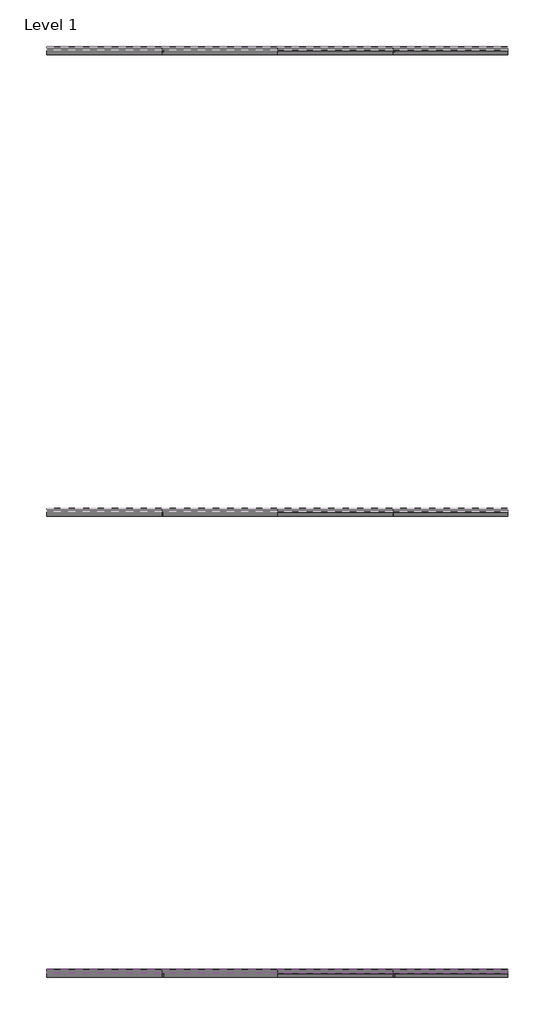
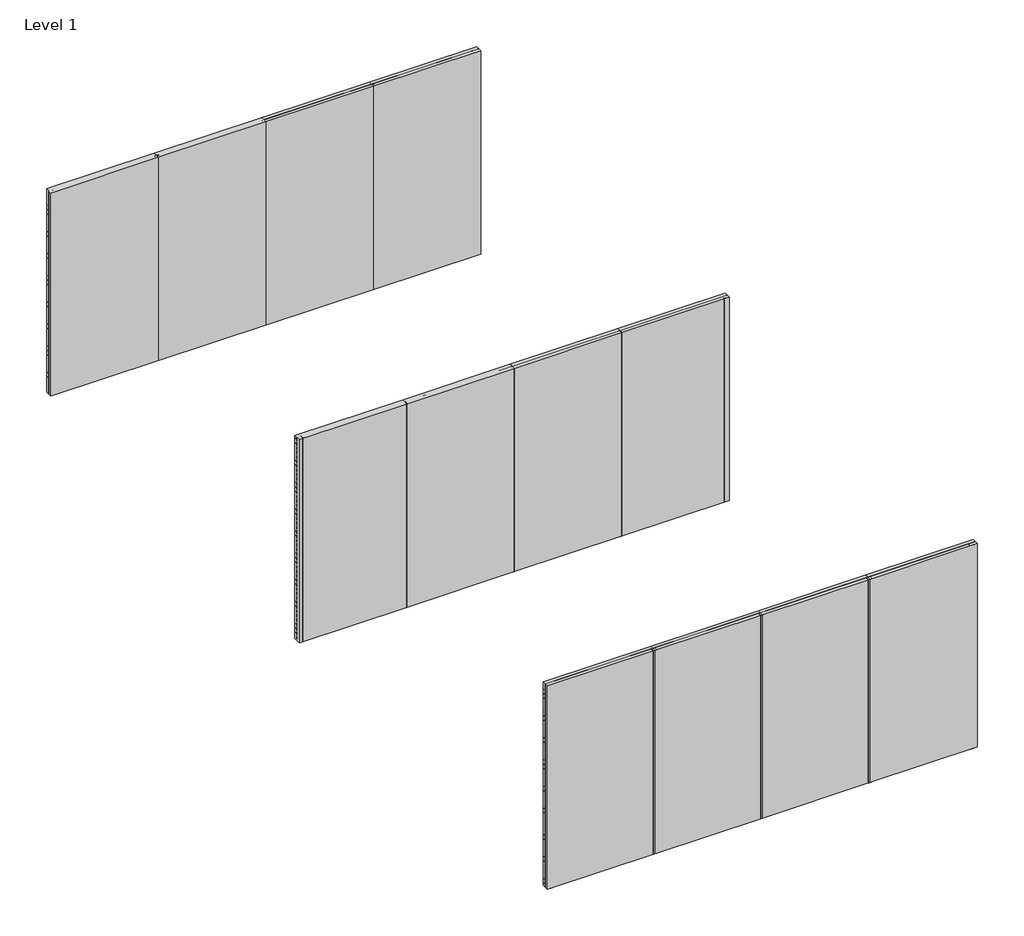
# One storey, part 1 of 2: 57 proxies, 15 members, 15 plates.
"""IFC4 building model written with IfcOpenShell, lengths in millimetres."""

from ifc_helpers import new_model, si_unit, frame, origin, origin_with_axes, place, context, project, spatial, polyline, outline, extrude, transform, mapped, element, save
from components import rectangular_mullion_bbbcbd30, rectangular_mullion_f8d4a220, rectangular_mullion_81aaf6fe, rectangular_mullion_6e08dc26, rectangular_mullion_75c52e10, rectangular_mullion_40295cf1, rectangular_mullion_7f158cb3, rectangular_mullion_66519e13, rectangular_mullion_5829b51c, empty_system_panel_empty_ae16e1e1

model = new_model("IFC4")

# Units and contexts
model_context = context("Model", 3, world=origin())
ifc_project = project(units=[si_unit("LENGTHUNIT", "METRE", prefix="MILLI")], contexts=[model_context])

# Site, building, storey
site = spatial("IfcSite", under=ifc_project)
building = spatial("IfcBuilding", under=site)
storey = spatial("IfcBuildingStorey", under=building, Name="Level 1", Elevation=0.0)

# Proxies
placement = place(None, origin())
element("IfcBuildingElementProxy", 1, Name="Wall Sweeps", at=placement, inside=storey, context=model_context, shape_type="SweptSolid", body=[
    extrude(outline(polyline([(-7995.0, 2990.0), (-7995.0, 2981.2901632), (-7946.0, 2953.0), (-7946.0, 2918.0), (-7997.0, 2947.4448637), (-7997.0, 2990.0), (-7995.0, 2990.0)])), frame((0.0, 0.0, 0.0), z_axis=(1.0, 0.0, 0.0), x_axis=(0.0, 1.0, 0.0)), (0.0, 0.0, 1.0), 6000.0),
])
element("IfcBuildingElementProxy", 2, Name="Wall Sweeps", at=placement, inside=storey, context=model_context, shape_type="SweptSolid", body=[
    extrude(outline(polyline([(-7995.0, 2925.0), (-7995.0, 2916.2901632), (-7946.0, 2888.0), (-7946.0, 2853.0), (-7997.0, 2882.4448637), (-7997.0, 2925.0), (-7995.0, 2925.0)])), frame((0.0, 0.0, 0.0), z_axis=(1.0, 0.0, 0.0), x_axis=(0.0, 1.0, 0.0)), (0.0, 0.0, 1.0), 6000.0),
])
element("IfcBuildingElementProxy", 3, Name="Wall Sweeps", at=placement, inside=storey, context=model_context, shape_type="SweptSolid", body=[
    extrude(outline(polyline([(-7995.0, 2860.0), (-7995.0, 2851.2901632), (-7946.0, 2823.0), (-7946.0, 2788.0), (-7997.0, 2817.4448637), (-7997.0, 2860.0), (-7995.0, 2860.0)])), frame((0.0, 0.0, 0.0), z_axis=(1.0, 0.0, 0.0), x_axis=(0.0, 1.0, 0.0)), (0.0, 0.0, 1.0), 6000.0),
])
element("IfcBuildingElementProxy", 4, Name="Wall Sweeps", at=placement, inside=storey, context=model_context, shape_type="SweptSolid", body=[
    extrude(outline(polyline([(-7995.0, 2795.0), (-7995.0, 2786.2901632), (-7946.0, 2758.0), (-7946.0, 2723.0), (-7997.0, 2752.4448637), (-7997.0, 2795.0), (-7995.0, 2795.0)])), frame((0.0, 0.0, 0.0), z_axis=(1.0, 0.0, 0.0), x_axis=(0.0, 1.0, 0.0)), (0.0, 0.0, 1.0), 6000.0),
])
element("IfcBuildingElementProxy", 5, Name="Wall Sweeps", at=placement, inside=storey, context=model_context, shape_type="SweptSolid", body=[
    extrude(outline(polyline([(-7995.0, 2730.0), (-7995.0, 2721.2901632), (-7946.0, 2693.0), (-7946.0, 2658.0), (-7997.0, 2687.4448637), (-7997.0, 2730.0), (-7995.0, 2730.0)])), frame((0.0, 0.0, 0.0), z_axis=(1.0, 0.0, 0.0), x_axis=(0.0, 1.0, 0.0)), (0.0, 0.0, 1.0), 6000.0),
])
element("IfcBuildingElementProxy", 6, Name="Wall Sweeps", at=placement, inside=storey, context=model_context, shape_type="SweptSolid", body=[
    extrude(outline(polyline([(-7995.0, 2665.0), (-7995.0, 2656.2901632), (-7946.0, 2628.0), (-7946.0, 2593.0), (-7997.0, 2622.4448637), (-7997.0, 2665.0), (-7995.0, 2665.0)])), frame((0.0, 0.0, 0.0), z_axis=(1.0, 0.0, 0.0), x_axis=(0.0, 1.0, 0.0)), (0.0, 0.0, 1.0), 6000.0),
])
element("IfcBuildingElementProxy", 7, Name="Wall Sweeps", at=placement, inside=storey, context=model_context, shape_type="SweptSolid", body=[
    extrude(outline(polyline([(-7995.0, 2600.0), (-7995.0, 2591.2901632), (-7946.0, 2563.0), (-7946.0, 2528.0), (-7997.0, 2557.4448637), (-7997.0, 2600.0), (-7995.0, 2600.0)])), frame((0.0, 0.0, 0.0), z_axis=(1.0, 0.0, 0.0), x_axis=(0.0, 1.0, 0.0)), (0.0, 0.0, 1.0), 6000.0),
])
element("IfcBuildingElementProxy", 8, Name="Wall Sweeps", at=placement, inside=storey, context=model_context, shape_type="SweptSolid", body=[
    extrude(outline(polyline([(-7995.0, 2535.0), (-7995.0, 2526.2901632), (-7946.0, 2498.0), (-7946.0, 2463.0), (-7997.0, 2492.4448637), (-7997.0, 2535.0), (-7995.0, 2535.0)])), frame((0.0, 0.0, 0.0), z_axis=(1.0, 0.0, 0.0), x_axis=(0.0, 1.0, 0.0)), (0.0, 0.0, 1.0), 6000.0),
])
element("IfcBuildingElementProxy", 9, Name="Wall Sweeps", at=placement, inside=storey, context=model_context, shape_type="SweptSolid", body=[
    extrude(outline(polyline([(-7995.0, 2470.0), (-7995.0, 2461.2901632), (-7946.0, 2433.0), (-7946.0, 2398.0), (-7997.0, 2427.4448637), (-7997.0, 2470.0), (-7995.0, 2470.0)])), frame((0.0, 0.0, 0.0), z_axis=(1.0, 0.0, 0.0), x_axis=(0.0, 1.0, 0.0)), (0.0, 0.0, 1.0), 6000.0),
])
element("IfcBuildingElementProxy", 10, Name="Wall Sweeps", at=placement, inside=storey, context=model_context, shape_type="SweptSolid", body=[
    extrude(outline(polyline([(-7995.0, 2405.0), (-7995.0, 2396.2901632), (-7946.0, 2368.0), (-7946.0, 2333.0), (-7997.0, 2362.4448637), (-7997.0, 2405.0), (-7995.0, 2405.0)])), frame((0.0, 0.0, 0.0), z_axis=(1.0, 0.0, 0.0), x_axis=(0.0, 1.0, 0.0)), (0.0, 0.0, 1.0), 6000.0),
])
element("IfcBuildingElementProxy", 11, Name="Wall Sweeps", at=placement, inside=storey, context=model_context, shape_type="SweptSolid", body=[
    extrude(outline(polyline([(-7995.0, 2340.0), (-7995.0, 2331.2901632), (-7946.0, 2303.0), (-7946.0, 2268.0), (-7997.0, 2297.4448637), (-7997.0, 2340.0), (-7995.0, 2340.0)])), frame((0.0, 0.0, 0.0), z_axis=(1.0, 0.0, 0.0), x_axis=(0.0, 1.0, 0.0)), (0.0, 0.0, 1.0), 6000.0),
])
element("IfcBuildingElementProxy", 12, Name="Wall Sweeps", at=placement, inside=storey, context=model_context, shape_type="SweptSolid", body=[
    extrude(outline(polyline([(-13995.0, 2990.0), (-13995.0, 2981.2901632), (-13946.0, 2953.0), (-13946.0, 2918.0), (-13997.0, 2947.4448637), (-13997.0, 2990.0), (-13995.0, 2990.0)])), frame((0.0, 0.0, 0.0), z_axis=(1.0, 0.0, 0.0), x_axis=(0.0, 1.0, 0.0)), (0.0, 0.0, 1.0), 6000.0),
])
element("IfcBuildingElementProxy", 13, Name="Wall Sweeps", at=placement, inside=storey, context=model_context, shape_type="SweptSolid", body=[
    extrude(outline(polyline([(-13995.0, 2925.0), (-13995.0, 2916.2901632), (-13946.0, 2888.0), (-13946.0, 2853.0), (-13997.0, 2882.4448637), (-13997.0, 2925.0), (-13995.0, 2925.0)])), frame((0.0, 0.0, 0.0), z_axis=(1.0, 0.0, 0.0), x_axis=(0.0, 1.0, 0.0)), (0.0, 0.0, 1.0), 6000.0),
])
element("IfcBuildingElementProxy", 14, Name="Wall Sweeps", at=placement, inside=storey, context=model_context, shape_type="SweptSolid", body=[
    extrude(outline(polyline([(-13995.0, 2860.0), (-13995.0, 2851.2901632), (-13946.0, 2823.0), (-13946.0, 2788.0), (-13997.0, 2817.4448637), (-13997.0, 2860.0), (-13995.0, 2860.0)])), frame((0.0, 0.0, 0.0), z_axis=(1.0, 0.0, 0.0), x_axis=(0.0, 1.0, 0.0)), (0.0, 0.0, 1.0), 6000.0),
])
element("IfcBuildingElementProxy", 15, Name="Wall Sweeps", at=placement, inside=storey, context=model_context, shape_type="SweptSolid", body=[
    extrude(outline(polyline([(-13995.0, 2795.0), (-13995.0, 2786.2901632), (-13946.0, 2758.0), (-13946.0, 2723.0), (-13997.0, 2752.4448637), (-13997.0, 2795.0), (-13995.0, 2795.0)])), frame((0.0, 0.0, 0.0), z_axis=(1.0, 0.0, 0.0), x_axis=(0.0, 1.0, 0.0)), (0.0, 0.0, 1.0), 6000.0),
])
element("IfcBuildingElementProxy", 16, Name="Wall Sweeps", at=placement, inside=storey, context=model_context, shape_type="SweptSolid", body=[
    extrude(outline(polyline([(-13995.0, 2730.0), (-13995.0, 2721.2901632), (-13946.0, 2693.0), (-13946.0, 2658.0), (-13997.0, 2687.4448637), (-13997.0, 2730.0), (-13995.0, 2730.0)])), frame((0.0, 0.0, 0.0), z_axis=(1.0, 0.0, 0.0), x_axis=(0.0, 1.0, 0.0)), (0.0, 0.0, 1.0), 6000.0),
])
element("IfcBuildingElementProxy", 17, Name="Wall Sweeps", at=placement, inside=storey, context=model_context, shape_type="SweptSolid", body=[
    extrude(outline(polyline([(-13995.0, 2665.0), (-13995.0, 2656.2901632), (-13946.0, 2628.0), (-13946.0, 2593.0), (-13997.0, 2622.4448637), (-13997.0, 2665.0), (-13995.0, 2665.0)])), frame((0.0, 0.0, 0.0), z_axis=(1.0, 0.0, 0.0), x_axis=(0.0, 1.0, 0.0)), (0.0, 0.0, 1.0), 6000.0),
])
element("IfcBuildingElementProxy", 18, Name="Wall Sweeps", at=placement, inside=storey, context=model_context, shape_type="SweptSolid", body=[
    extrude(outline(polyline([(-13995.0, 2600.0), (-13995.0, 2591.2901632), (-13946.0, 2563.0), (-13946.0, 2528.0), (-13997.0, 2557.4448637), (-13997.0, 2600.0), (-13995.0, 2600.0)])), frame((0.0, 0.0, 0.0), z_axis=(1.0, 0.0, 0.0), x_axis=(0.0, 1.0, 0.0)), (0.0, 0.0, 1.0), 6000.0),
])
element("IfcBuildingElementProxy", 19, Name="Wall Sweeps", at=placement, inside=storey, context=model_context, shape_type="SweptSolid", body=[
    extrude(outline(polyline([(-13995.0, 2535.0), (-13995.0, 2526.2901632), (-13946.0, 2498.0), (-13946.0, 2463.0), (-13997.0, 2492.4448637), (-13997.0, 2535.0), (-13995.0, 2535.0)])), frame((0.0, 0.0, 0.0), z_axis=(1.0, 0.0, 0.0), x_axis=(0.0, 1.0, 0.0)), (0.0, 0.0, 1.0), 6000.0),
])
element("IfcBuildingElementProxy", 20, Name="Wall Sweeps", at=placement, inside=storey, context=model_context, shape_type="SweptSolid", body=[
    extrude(outline(polyline([(-13995.0, 2470.0), (-13995.0, 2461.2901632), (-13946.0, 2433.0), (-13946.0, 2398.0), (-13997.0, 2427.4448637), (-13997.0, 2470.0), (-13995.0, 2470.0)])), frame((0.0, 0.0, 0.0), z_axis=(1.0, 0.0, 0.0), x_axis=(0.0, 1.0, 0.0)), (0.0, 0.0, 1.0), 6000.0),
])
element("IfcBuildingElementProxy", 21, Name="Wall Sweeps", at=placement, inside=storey, context=model_context, shape_type="SweptSolid", body=[
    extrude(outline(polyline([(-13995.0, 2405.0), (-13995.0, 2396.2901632), (-13946.0, 2368.0), (-13946.0, 2333.0), (-13997.0, 2362.4448637), (-13997.0, 2405.0), (-13995.0, 2405.0)])), frame((0.0, 0.0, 0.0), z_axis=(1.0, 0.0, 0.0), x_axis=(0.0, 1.0, 0.0)), (0.0, 0.0, 1.0), 6000.0),
])
element("IfcBuildingElementProxy", 22, Name="Wall Sweeps", at=placement, inside=storey, context=model_context, shape_type="SweptSolid", body=[
    extrude(outline(polyline([(-13995.0, 2340.0), (-13995.0, 2331.2901632), (-13946.0, 2303.0), (-13946.0, 2268.0), (-13997.0, 2297.4448637), (-13997.0, 2340.0), (-13995.0, 2340.0)])), frame((0.0, 0.0, 0.0), z_axis=(1.0, 0.0, 0.0), x_axis=(0.0, 1.0, 0.0)), (0.0, 0.0, 1.0), 6000.0),
])
element("IfcBuildingElementProxy", 23, Name="Wall Sweeps", at=placement, inside=storey, context=model_context, shape_type="SweptSolid", body=[
    extrude(outline(polyline([(-13995.0, 2275.0), (-13995.0, 2266.2901632), (-13946.0, 2238.0), (-13946.0, 2203.0), (-13997.0, 2232.4448637), (-13997.0, 2275.0), (-13995.0, 2275.0)])), frame((0.0, 0.0, 0.0), z_axis=(1.0, 0.0, 0.0), x_axis=(0.0, 1.0, 0.0)), (0.0, 0.0, 1.0), 6000.0),
])
element("IfcBuildingElementProxy", 24, Name="Wall Sweeps", at=placement, inside=storey, context=model_context, shape_type="SweptSolid", body=[
    extrude(outline(polyline([(-13995.0, 2210.0), (-13995.0, 2201.2901632), (-13946.0, 2173.0), (-13946.0, 2138.0), (-13997.0, 2167.4448637), (-13997.0, 2210.0), (-13995.0, 2210.0)])), frame((0.0, 0.0, 0.0), z_axis=(1.0, 0.0, 0.0), x_axis=(0.0, 1.0, 0.0)), (0.0, 0.0, 1.0), 6000.0),
])
element("IfcBuildingElementProxy", 25, Name="Wall Sweeps", at=placement, inside=storey, context=model_context, shape_type="SweptSolid", body=[
    extrude(outline(polyline([(-13995.0, 2145.0), (-13995.0, 2136.2901632), (-13946.0, 2108.0), (-13946.0, 2073.0), (-13997.0, 2102.4448637), (-13997.0, 2145.0), (-13995.0, 2145.0)])), frame((0.0, 0.0, 0.0), z_axis=(1.0, 0.0, 0.0), x_axis=(0.0, 1.0, 0.0)), (0.0, 0.0, 1.0), 6000.0),
])
element("IfcBuildingElementProxy", 26, Name="Wall Sweeps", at=placement, inside=storey, context=model_context, shape_type="SweptSolid", body=[
    extrude(outline(polyline([(-13995.0, 2080.0), (-13995.0, 2071.2901632), (-13946.0, 2043.0), (-13946.0, 2008.0), (-13997.0, 2037.4448637), (-13997.0, 2080.0), (-13995.0, 2080.0)])), frame((0.0, 0.0, 0.0), z_axis=(1.0, 0.0, 0.0), x_axis=(0.0, 1.0, 0.0)), (0.0, 0.0, 1.0), 6000.0),
])
element("IfcBuildingElementProxy", 27, Name="Wall Sweeps", at=placement, inside=storey, context=model_context, shape_type="SweptSolid", body=[
    extrude(outline(polyline([(-13995.0, 2015.0), (-13995.0, 2006.2901632), (-13946.0, 1978.0), (-13946.0, 1943.0), (-13997.0, 1972.4448637), (-13997.0, 2015.0), (-13995.0, 2015.0)])), frame((0.0, 0.0, 0.0), z_axis=(1.0, 0.0, 0.0), x_axis=(0.0, 1.0, 0.0)), (0.0, 0.0, 1.0), 6000.0),
])
element("IfcBuildingElementProxy", 28, Name="Wall Sweeps", at=placement, inside=storey, context=model_context, shape_type="SweptSolid", body=[
    extrude(outline(polyline([(-13995.0, 1950.0), (-13995.0, 1941.2901632), (-13946.0, 1913.0), (-13946.0, 1878.0), (-13997.0, 1907.4448637), (-13997.0, 1950.0), (-13995.0, 1950.0)])), frame((0.0, 0.0, 0.0), z_axis=(1.0, 0.0, 0.0), x_axis=(0.0, 1.0, 0.0)), (0.0, 0.0, 1.0), 6000.0),
])
element("IfcBuildingElementProxy", 29, Name="Wall Sweeps", at=placement, inside=storey, context=model_context, shape_type="SweptSolid", body=[
    extrude(outline(polyline([(-13995.0, 1885.0), (-13995.0, 1876.2901632), (-13946.0, 1848.0), (-13946.0, 1813.0), (-13997.0, 1842.4448637), (-13997.0, 1885.0), (-13995.0, 1885.0)])), frame((0.0, 0.0, 0.0), z_axis=(1.0, 0.0, 0.0), x_axis=(0.0, 1.0, 0.0)), (0.0, 0.0, 1.0), 6000.0),
])
element("IfcBuildingElementProxy", 30, Name="Wall Sweeps", at=placement, inside=storey, context=model_context, shape_type="SweptSolid", body=[
    extrude(outline(polyline([(-13995.0, 1820.0), (-13995.0, 1811.2901632), (-13946.0, 1783.0), (-13946.0, 1748.0), (-13997.0, 1777.4448637), (-13997.0, 1820.0), (-13995.0, 1820.0)])), frame((0.0, 0.0, 0.0), z_axis=(1.0, 0.0, 0.0), x_axis=(0.0, 1.0, 0.0)), (0.0, 0.0, 1.0), 6000.0),
])
element("IfcBuildingElementProxy", 31, Name="Wall Sweeps", at=placement, inside=storey, context=model_context, shape_type="SweptSolid", body=[
    extrude(outline(polyline([(-13995.0, 1755.0), (-13995.0, 1746.2901632), (-13946.0, 1718.0), (-13946.0, 1683.0), (-13997.0, 1712.4448637), (-13997.0, 1755.0), (-13995.0, 1755.0)])), frame((0.0, 0.0, 0.0), z_axis=(1.0, 0.0, 0.0), x_axis=(0.0, 1.0, 0.0)), (0.0, 0.0, 1.0), 6000.0),
])
element("IfcBuildingElementProxy", 32, Name="Wall Sweeps", at=placement, inside=storey, context=model_context, shape_type="SweptSolid", body=[
    extrude(outline(polyline([(-13995.0, 1690.0), (-13995.0, 1681.2901632), (-13946.0, 1653.0), (-13946.0, 1618.0), (-13997.0, 1647.4448637), (-13997.0, 1690.0), (-13995.0, 1690.0)])), frame((0.0, 0.0, 0.0), z_axis=(1.0, 0.0, 0.0), x_axis=(0.0, 1.0, 0.0)), (0.0, 0.0, 1.0), 6000.0),
])
element("IfcBuildingElementProxy", 33, Name="Wall Sweeps", at=placement, inside=storey, context=model_context, shape_type="SweptSolid", body=[
    extrude(outline(polyline([(-13995.0, 1625.0), (-13995.0, 1616.2901632), (-13946.0, 1588.0), (-13946.0, 1553.0), (-13997.0, 1582.4448637), (-13997.0, 1625.0), (-13995.0, 1625.0)])), frame((0.0, 0.0, 0.0), z_axis=(1.0, 0.0, 0.0), x_axis=(0.0, 1.0, 0.0)), (0.0, 0.0, 1.0), 6000.0),
])
element("IfcBuildingElementProxy", 34, Name="Wall Sweeps", at=placement, inside=storey, context=model_context, shape_type="SweptSolid", body=[
    extrude(outline(polyline([(-13995.0, 1560.0), (-13995.0, 1551.2901632), (-13946.0, 1523.0), (-13946.0, 1488.0), (-13997.0, 1517.4448637), (-13997.0, 1560.0), (-13995.0, 1560.0)])), frame((0.0, 0.0, 0.0), z_axis=(1.0, 0.0, 0.0), x_axis=(0.0, 1.0, 0.0)), (0.0, 0.0, 1.0), 6000.0),
])
element("IfcBuildingElementProxy", 35, Name="Wall Sweeps", at=placement, inside=storey, context=model_context, shape_type="SweptSolid", body=[
    extrude(outline(polyline([(-13995.0, 1495.0), (-13995.0, 1486.2901632), (-13946.0, 1458.0), (-13946.0, 1423.0), (-13997.0, 1452.4448637), (-13997.0, 1495.0), (-13995.0, 1495.0)])), frame((0.0, 0.0, 0.0), z_axis=(1.0, 0.0, 0.0), x_axis=(0.0, 1.0, 0.0)), (0.0, 0.0, 1.0), 6000.0),
])
element("IfcBuildingElementProxy", 36, Name="Wall Sweeps", at=placement, inside=storey, context=model_context, shape_type="SweptSolid", body=[
    extrude(outline(polyline([(-13995.0, 1430.0), (-13995.0, 1421.2901632), (-13946.0, 1393.0), (-13946.0, 1358.0), (-13997.0, 1387.4448637), (-13997.0, 1430.0), (-13995.0, 1430.0)])), frame((0.0, 0.0, 0.0), z_axis=(1.0, 0.0, 0.0), x_axis=(0.0, 1.0, 0.0)), (0.0, 0.0, 1.0), 6000.0),
])
element("IfcBuildingElementProxy", 37, Name="Wall Sweeps", at=placement, inside=storey, context=model_context, shape_type="SweptSolid", body=[
    extrude(outline(polyline([(-13995.0, 1365.0), (-13995.0, 1356.2901632), (-13946.0, 1328.0), (-13946.0, 1293.0), (-13997.0, 1322.4448637), (-13997.0, 1365.0), (-13995.0, 1365.0)])), frame((0.0, 0.0, 0.0), z_axis=(1.0, 0.0, 0.0), x_axis=(0.0, 1.0, 0.0)), (0.0, 0.0, 1.0), 6000.0),
])
element("IfcBuildingElementProxy", 38, Name="Wall Sweeps", at=placement, inside=storey, context=model_context, shape_type="SweptSolid", body=[
    extrude(outline(polyline([(-13995.0, 1300.0), (-13995.0, 1291.2901632), (-13946.0, 1263.0), (-13946.0, 1228.0), (-13997.0, 1257.4448637), (-13997.0, 1300.0), (-13995.0, 1300.0)])), frame((0.0, 0.0, 0.0), z_axis=(1.0, 0.0, 0.0), x_axis=(0.0, 1.0, 0.0)), (0.0, 0.0, 1.0), 6000.0),
])
element("IfcBuildingElementProxy", 39, Name="Wall Sweeps", at=placement, inside=storey, context=model_context, shape_type="SweptSolid", body=[
    extrude(outline(polyline([(-13995.0, 1235.0), (-13995.0, 1226.2901632), (-13946.0, 1198.0), (-13946.0, 1163.0), (-13997.0, 1192.4448637), (-13997.0, 1235.0), (-13995.0, 1235.0)])), frame((0.0, 0.0, 0.0), z_axis=(1.0, 0.0, 0.0), x_axis=(0.0, 1.0, 0.0)), (0.0, 0.0, 1.0), 6000.0),
])
element("IfcBuildingElementProxy", 40, Name="Wall Sweeps", at=placement, inside=storey, context=model_context, shape_type="SweptSolid", body=[
    extrude(outline(polyline([(-13995.0, 1170.0), (-13995.0, 1161.2901632), (-13946.0, 1133.0), (-13946.0, 1098.0), (-13997.0, 1127.4448637), (-13997.0, 1170.0), (-13995.0, 1170.0)])), frame((0.0, 0.0, 0.0), z_axis=(1.0, 0.0, 0.0), x_axis=(0.0, 1.0, 0.0)), (0.0, 0.0, 1.0), 6000.0),
])
element("IfcBuildingElementProxy", 41, Name="Wall Sweeps", at=placement, inside=storey, context=model_context, shape_type="SweptSolid", body=[
    extrude(outline(polyline([(-13995.0, 1105.0), (-13995.0, 1096.2901632), (-13946.0, 1068.0), (-13946.0, 1033.0), (-13997.0, 1062.4448637), (-13997.0, 1105.0), (-13995.0, 1105.0)])), frame((0.0, 0.0, 0.0), z_axis=(1.0, 0.0, 0.0), x_axis=(0.0, 1.0, 0.0)), (0.0, 0.0, 1.0), 6000.0),
])
element("IfcBuildingElementProxy", 42, Name="Wall Sweeps", at=placement, inside=storey, context=model_context, shape_type="SweptSolid", body=[
    extrude(outline(polyline([(-13995.0, 1040.0), (-13995.0, 1031.2901632), (-13946.0, 1003.0), (-13946.0, 968.0), (-13997.0, 997.4448637), (-13997.0, 1040.0), (-13995.0, 1040.0)])), frame((0.0, 0.0, 0.0), z_axis=(1.0, 0.0, 0.0), x_axis=(0.0, 1.0, 0.0)), (0.0, 0.0, 1.0), 6000.0),
])
element("IfcBuildingElementProxy", 43, Name="Wall Sweeps", at=placement, inside=storey, context=model_context, shape_type="SweptSolid", body=[
    extrude(outline(polyline([(-13995.0, 975.0), (-13995.0, 966.2901632), (-13946.0, 938.0), (-13946.0, 903.0), (-13997.0, 932.4448637), (-13997.0, 975.0), (-13995.0, 975.0)])), frame((0.0, 0.0, 0.0), z_axis=(1.0, 0.0, 0.0), x_axis=(0.0, 1.0, 0.0)), (0.0, 0.0, 1.0), 6000.0),
])
element("IfcBuildingElementProxy", 44, Name="Wall Sweeps", at=placement, inside=storey, context=model_context, shape_type="SweptSolid", body=[
    extrude(outline(polyline([(-13995.0, 910.0), (-13995.0, 901.2901632), (-13946.0, 873.0), (-13946.0, 838.0), (-13997.0, 867.4448637), (-13997.0, 910.0), (-13995.0, 910.0)])), frame((0.0, 0.0, 0.0), z_axis=(1.0, 0.0, 0.0), x_axis=(0.0, 1.0, 0.0)), (0.0, 0.0, 1.0), 6000.0),
])
element("IfcBuildingElementProxy", 45, Name="Wall Sweeps", at=placement, inside=storey, context=model_context, shape_type="SweptSolid", body=[
    extrude(outline(polyline([(-13995.0, 845.0), (-13995.0, 836.2901632), (-13946.0, 808.0), (-13946.0, 773.0), (-13997.0, 802.4448637), (-13997.0, 845.0), (-13995.0, 845.0)])), frame((0.0, 0.0, 0.0), z_axis=(1.0, 0.0, 0.0), x_axis=(0.0, 1.0, 0.0)), (0.0, 0.0, 1.0), 6000.0),
])
element("IfcBuildingElementProxy", 46, Name="Wall Sweeps", at=placement, inside=storey, context=model_context, shape_type="SweptSolid", body=[
    extrude(outline(polyline([(-13995.0, 780.0), (-13995.0, 771.2901632), (-13946.0, 743.0), (-13946.0, 708.0), (-13997.0, 737.4448637), (-13997.0, 780.0), (-13995.0, 780.0)])), frame((0.0, 0.0, 0.0), z_axis=(1.0, 0.0, 0.0), x_axis=(0.0, 1.0, 0.0)), (0.0, 0.0, 1.0), 6000.0),
])
element("IfcBuildingElementProxy", 47, Name="Wall Sweeps", at=placement, inside=storey, context=model_context, shape_type="SweptSolid", body=[
    extrude(outline(polyline([(-13995.0, 715.0), (-13995.0, 706.2901632), (-13946.0, 678.0), (-13946.0, 643.0), (-13997.0, 672.4448637), (-13997.0, 715.0), (-13995.0, 715.0)])), frame((0.0, 0.0, 0.0), z_axis=(1.0, 0.0, 0.0), x_axis=(0.0, 1.0, 0.0)), (0.0, 0.0, 1.0), 6000.0),
])
element("IfcBuildingElementProxy", 48, Name="Wall Sweeps", at=placement, inside=storey, context=model_context, shape_type="SweptSolid", body=[
    extrude(outline(polyline([(-13995.0, 650.0), (-13995.0, 641.2901632), (-13946.0, 613.0), (-13946.0, 578.0), (-13997.0, 607.4448637), (-13997.0, 650.0), (-13995.0, 650.0)])), frame((0.0, 0.0, 0.0), z_axis=(1.0, 0.0, 0.0), x_axis=(0.0, 1.0, 0.0)), (0.0, 0.0, 1.0), 6000.0),
])
element("IfcBuildingElementProxy", 49, Name="Wall Sweeps", at=placement, inside=storey, context=model_context, shape_type="SweptSolid", body=[
    extrude(outline(polyline([(-13995.0, 585.0), (-13995.0, 576.2901632), (-13946.0, 548.0), (-13946.0, 513.0), (-13997.0, 542.4448637), (-13997.0, 585.0), (-13995.0, 585.0)])), frame((0.0, 0.0, 0.0), z_axis=(1.0, 0.0, 0.0), x_axis=(0.0, 1.0, 0.0)), (0.0, 0.0, 1.0), 6000.0),
])
element("IfcBuildingElementProxy", 50, Name="Wall Sweeps", at=placement, inside=storey, context=model_context, shape_type="SweptSolid", body=[
    extrude(outline(polyline([(-13995.0, 520.0), (-13995.0, 511.2901632), (-13946.0, 483.0), (-13946.0, 448.0), (-13997.0, 477.4448637), (-13997.0, 520.0), (-13995.0, 520.0)])), frame((0.0, 0.0, 0.0), z_axis=(1.0, 0.0, 0.0), x_axis=(0.0, 1.0, 0.0)), (0.0, 0.0, 1.0), 6000.0),
])
element("IfcBuildingElementProxy", 51, Name="Wall Sweeps", at=placement, inside=storey, context=model_context, shape_type="SweptSolid", body=[
    extrude(outline(polyline([(-13995.0, 455.0), (-13995.0, 446.2901632), (-13946.0, 418.0), (-13946.0, 383.0), (-13997.0, 412.4448637), (-13997.0, 455.0), (-13995.0, 455.0)])), frame((0.0, 0.0, 0.0), z_axis=(1.0, 0.0, 0.0), x_axis=(0.0, 1.0, 0.0)), (0.0, 0.0, 1.0), 6000.0),
])
element("IfcBuildingElementProxy", 52, Name="Wall Sweeps", at=placement, inside=storey, context=model_context, shape_type="SweptSolid", body=[
    extrude(outline(polyline([(-13995.0, 390.0), (-13995.0, 381.2901632), (-13946.0, 353.0), (-13946.0, 318.0), (-13997.0, 347.4448637), (-13997.0, 390.0), (-13995.0, 390.0)])), frame((0.0, 0.0, 0.0), z_axis=(1.0, 0.0, 0.0), x_axis=(0.0, 1.0, 0.0)), (0.0, 0.0, 1.0), 6000.0),
])
element("IfcBuildingElementProxy", 53, Name="Wall Sweeps", at=placement, inside=storey, context=model_context, shape_type="SweptSolid", body=[
    extrude(outline(polyline([(-13995.0, 325.0), (-13995.0, 316.2901632), (-13946.0, 288.0), (-13946.0, 253.0), (-13997.0, 282.4448637), (-13997.0, 325.0), (-13995.0, 325.0)])), frame((0.0, 0.0, 0.0), z_axis=(1.0, 0.0, 0.0), x_axis=(0.0, 1.0, 0.0)), (0.0, 0.0, 1.0), 6000.0),
])
element("IfcBuildingElementProxy", 54, Name="Wall Sweeps", at=placement, inside=storey, context=model_context, shape_type="SweptSolid", body=[
    extrude(outline(polyline([(-13995.0, 260.0), (-13995.0, 251.2901632), (-13946.0, 223.0), (-13946.0, 188.0), (-13997.0, 217.4448637), (-13997.0, 260.0), (-13995.0, 260.0)])), frame((0.0, 0.0, 0.0), z_axis=(1.0, 0.0, 0.0), x_axis=(0.0, 1.0, 0.0)), (0.0, 0.0, 1.0), 6000.0),
])
element("IfcBuildingElementProxy", 55, Name="Wall Sweeps", at=placement, inside=storey, context=model_context, shape_type="SweptSolid", body=[
    extrude(outline(polyline([(-13995.0, 195.0), (-13995.0, 186.2901632), (-13946.0, 158.0), (-13946.0, 123.0), (-13997.0, 152.4448637), (-13997.0, 195.0), (-13995.0, 195.0)])), frame((0.0, 0.0, 0.0), z_axis=(1.0, 0.0, 0.0), x_axis=(0.0, 1.0, 0.0)), (0.0, 0.0, 1.0), 6000.0),
])
element("IfcBuildingElementProxy", 56, Name="Wall Sweeps", at=placement, inside=storey, context=model_context, shape_type="SweptSolid", body=[
    extrude(outline(polyline([(-13995.0, 130.0), (-13995.0, 121.2901632), (-13946.0, 93.0), (-13946.0, 58.0), (-13997.0, 87.4448637), (-13997.0, 130.0), (-13995.0, 130.0)])), frame((0.0, 0.0, 0.0), z_axis=(1.0, 0.0, 0.0), x_axis=(0.0, 1.0, 0.0)), (0.0, 0.0, 1.0), 6000.0),
])
element("IfcBuildingElementProxy", 57, Name="Wall Sweeps", at=placement, inside=storey, context=model_context, shape_type="SweptSolid", body=[
    extrude(outline(polyline([(-13995.0, 65.0), (-13995.0, 56.2901632), (-13946.0, 28.0), (-13946.0, -7.0), (-13997.0, 22.4448637), (-13997.0, 65.0), (-13995.0, 65.0)])), frame((0.0, 0.0, 0.0), z_axis=(1.0, 0.0, 0.0), x_axis=(0.0, 1.0, 0.0)), (0.0, 0.0, 1.0), 6000.0),
])

# Members
rectangular_mullion_shape = rectangular_mullion_bbbcbd30(model_context)
element("IfcMember", 58, ObjectType="Rectangular Mullion : RSen_21_CWM_support profile - 50x12 - left_gen_duco projects", at=placement, inside=storey, context=model_context, shape_type="MappedRepresentation", body=[
    mapped(rectangular_mullion_shape, transform((0.0, -2000.0, 0.0), x_axis=(-1.0, 0.0, 0.0), y_axis=(0.0, 1.0, 0.0), z_axis=(0.0, 0.0, -1.0))),
])
rectangular_mullion_2_shape = rectangular_mullion_f8d4a220(model_context)
element("IfcMember", 59, ObjectType="Rectangular Mullion : RSen_21_CWM_support profile - 50x12 - right_gen_duco projects", at=placement, inside=storey, context=model_context, shape_type="MappedRepresentation", body=[
    mapped(rectangular_mullion_2_shape, transform((6000.0, -2000.0, 3000.0), x_axis=(1.0, 0.0, 0.0), y_axis=(0.0, 1.0, 0.0), z_axis=(0.0, 0.0, 1.0))),
])
rectangular_mullion_3_shape = rectangular_mullion_81aaf6fe(model_context)
element("IfcMember", 60, ObjectType="Rectangular Mullion : RSen_21_CWM_support profile - 21x50 Multi - left_gen_duco projects", at=placement, inside=storey, context=model_context, shape_type="MappedRepresentation", body=[
    mapped(rectangular_mullion_3_shape, transform((0.0, -8000.0, 0.0), x_axis=(-1.0, 0.0, 0.0), y_axis=(0.0, 1.0, 0.0), z_axis=(0.0, 0.0, -1.0))),
])
rectangular_mullion_4_shape = rectangular_mullion_6e08dc26(model_context)
element("IfcMember", 61, ObjectType="Rectangular Mullion : RSen_21_CWM_support profile - 21x50 Multi - right_gen_duco projects", at=placement, inside=storey, context=model_context, shape_type="MappedRepresentation", body=[
    mapped(rectangular_mullion_4_shape, transform((6000.0, -8000.0, 3000.0), x_axis=(1.0, 0.0, 0.0), y_axis=(0.0, 1.0, 0.0), z_axis=(0.0, 0.0, 1.0))),
])
rectangular_mullion_5_shape = rectangular_mullion_75c52e10(model_context)
element("IfcMember", 62, ObjectType="Rectangular Mullion : RSen_21_CWM_support profile - 50x50 - left_gen_duco projects", at=placement, inside=storey, context=model_context, shape_type="MappedRepresentation", body=[
    mapped(rectangular_mullion_5_shape, transform((0.0, -14000.0, 0.0), x_axis=(-1.0, 0.0, 0.0), y_axis=(0.0, 1.0, 0.0), z_axis=(0.0, 0.0, -1.0))),
])
rectangular_mullion_6_shape = rectangular_mullion_40295cf1(model_context)
element("IfcMember", 63, ObjectType="Rectangular Mullion : RSen_21_CWM_support profile - 50x50 - right_gen_duco projects", at=placement, inside=storey, context=model_context, shape_type="MappedRepresentation", body=[
    mapped(rectangular_mullion_6_shape, transform((6000.0, -14000.0, 3000.0), x_axis=(1.0, 0.0, 0.0), y_axis=(0.0, 1.0, 0.0), z_axis=(0.0, 0.0, 1.0))),
])
rectangular_mullion_7_shape = rectangular_mullion_7f158cb3(model_context)
element("IfcMember", 64, ObjectType="Rectangular Mullion : RSen_21_CWM_support profile - 50x12_gen_duco projects", at=placement, inside=storey, context=model_context, shape_type="MappedRepresentation", body=[
    mapped(rectangular_mullion_7_shape, transform((4500.0, -2000.0, 0.0), x_axis=(-1.0, 0.0, 0.0), y_axis=(0.0, 1.0, 0.0), z_axis=(0.0, 0.0, -1.0))),
])
element("IfcMember", 65, ObjectType="Rectangular Mullion : RSen_21_CWM_support profile - 50x12_gen_duco projects", at=placement, inside=storey, context=model_context, shape_type="MappedRepresentation", body=[
    mapped(rectangular_mullion_7_shape, transform((3000.0, -2000.0, 0.0), x_axis=(-1.0, 0.0, 0.0), y_axis=(0.0, 1.0, 0.0), z_axis=(0.0, 0.0, -1.0))),
])
element("IfcMember", 66, ObjectType="Rectangular Mullion : RSen_21_CWM_support profile - 50x12_gen_duco projects", at=placement, inside=storey, context=model_context, shape_type="MappedRepresentation", body=[
    mapped(rectangular_mullion_7_shape, transform((1500.0, -2000.0, 0.0), x_axis=(-1.0, 0.0, 0.0), y_axis=(0.0, 1.0, 0.0), z_axis=(0.0, 0.0, -1.0))),
])
rectangular_mullion_8_shape = rectangular_mullion_66519e13(model_context)
element("IfcMember", 67, ObjectType="Rectangular Mullion : RSen_21_CWM_support profile - 21x50 Multi_gen_duco projects", at=placement, inside=storey, context=model_context, shape_type="MappedRepresentation", body=[
    mapped(rectangular_mullion_8_shape, transform((4500.0, -8000.0, 0.0), x_axis=(-1.0, 0.0, 0.0), y_axis=(0.0, 1.0, 0.0), z_axis=(0.0, 0.0, -1.0))),
])
element("IfcMember", 68, ObjectType="Rectangular Mullion : RSen_21_CWM_support profile - 21x50 Multi_gen_duco projects", at=placement, inside=storey, context=model_context, shape_type="MappedRepresentation", body=[
    mapped(rectangular_mullion_8_shape, transform((3000.0, -8000.0, 0.0), x_axis=(-1.0, 0.0, 0.0), y_axis=(0.0, 1.0, 0.0), z_axis=(0.0, 0.0, -1.0))),
])
element("IfcMember", 69, ObjectType="Rectangular Mullion : RSen_21_CWM_support profile - 21x50 Multi_gen_duco projects", at=placement, inside=storey, context=model_context, shape_type="MappedRepresentation", body=[
    mapped(rectangular_mullion_8_shape, transform((1500.0, -8000.0, 0.0), x_axis=(-1.0, 0.0, 0.0), y_axis=(0.0, 1.0, 0.0), z_axis=(0.0, 0.0, -1.0))),
])
rectangular_mullion_9_shape = rectangular_mullion_5829b51c(model_context)
element("IfcMember", 70, ObjectType="Rectangular Mullion : RSen_21_CWM_support profile - 50x50_gen_duco projects", at=placement, inside=storey, context=model_context, shape_type="MappedRepresentation", body=[
    mapped(rectangular_mullion_9_shape, transform((4500.0, -14000.0, 0.0), x_axis=(-1.0, 0.0, 0.0), y_axis=(0.0, 1.0, 0.0), z_axis=(0.0, 0.0, -1.0))),
])
element("IfcMember", 71, ObjectType="Rectangular Mullion : RSen_21_CWM_support profile - 50x50_gen_duco projects", at=placement, inside=storey, context=model_context, shape_type="MappedRepresentation", body=[
    mapped(rectangular_mullion_9_shape, transform((3000.0, -14000.0, 0.0), x_axis=(-1.0, 0.0, 0.0), y_axis=(0.0, 1.0, 0.0), z_axis=(0.0, 0.0, -1.0))),
])
element("IfcMember", 72, ObjectType="Rectangular Mullion : RSen_21_CWM_support profile - 50x50_gen_duco projects", at=placement, inside=storey, context=model_context, shape_type="MappedRepresentation", body=[
    mapped(rectangular_mullion_9_shape, transform((1500.0, -14000.0, 0.0), x_axis=(-1.0, 0.0, 0.0), y_axis=(0.0, 1.0, 0.0), z_axis=(0.0, 0.0, -1.0))),
])

# Plates
element("IfcPlate", 73, ObjectType="RSen_21_WA_louvre blade classic W 50Z-30° - 65_gen_duco projects", at=placement, inside=storey, context=model_context, shape_type="SweptSolid", body=[
    extrude(outline(polyline([(0.0, -1999.0), (6000.0, -1999.0), (6000.0, -2001.0), (0.0, -2001.0), (0.0, -1999.0)])), origin_with_axes(), (0.0, 0.0, 1.0), 3000.0),
])
element("IfcPlate", 74, ObjectType="RSen_21_WA_louvre blade classic W 50Z-30° - 65_gen_duco projects", at=placement, inside=storey, context=model_context, shape_type="SweptSolid", body=[
    extrude(outline(polyline([(0.0, -7999.0), (6000.0, -7999.0), (6000.0, -8001.0), (0.0, -8001.0), (0.0, -7999.0)])), origin_with_axes(), (0.0, 0.0, 1.0), 3000.0),
])
element("IfcPlate", 75, ObjectType="RSen_21_WA_louvre blade classic W 50Z-30° - 65_gen_duco projects", at=placement, inside=storey, context=model_context, shape_type="SweptSolid", body=[
    extrude(outline(polyline([(0.0, -13999.0), (6000.0, -13999.0), (6000.0, -14001.0), (0.0, -14001.0), (0.0, -13999.0)])), origin_with_axes(), (0.0, 0.0, 1.0), 3000.0),
])
empty_system_panel_empty_shape = empty_system_panel_empty_ae16e1e1(model_context)
element("IfcPlate", 76, ObjectType="Empty System Panel : Empty", at=placement, inside=storey, context=model_context, shape_type="MappedRepresentation", body=[
    mapped(empty_system_panel_empty_shape, transform((5250.0, -2000.0, 0.0), x_axis=(-1.0, 0.0, 0.0), y_axis=(0.0, -1.0, 0.0), z_axis=(0.0, 0.0, 1.0))),
])
element("IfcPlate", 77, ObjectType="Empty System Panel : Empty", at=placement, inside=storey, context=model_context, shape_type="MappedRepresentation", body=[
    mapped(empty_system_panel_empty_shape, transform((5250.0, -8000.0, 0.0), x_axis=(-1.0, 0.0, 0.0), y_axis=(0.0, -1.0, 0.0), z_axis=(0.0, 0.0, 1.0))),
])
element("IfcPlate", 78, ObjectType="Empty System Panel : Empty", at=placement, inside=storey, context=model_context, shape_type="MappedRepresentation", body=[
    mapped(empty_system_panel_empty_shape, transform((5250.0, -14000.0, 0.0), x_axis=(-1.0, 0.0, 0.0), y_axis=(0.0, -1.0, 0.0), z_axis=(0.0, 0.0, 1.0))),
])
element("IfcPlate", 79, ObjectType="Empty System Panel : Empty", at=placement, inside=storey, context=model_context, shape_type="MappedRepresentation", body=[
    mapped(empty_system_panel_empty_shape, transform((3750.0, -2000.0, 0.0), x_axis=(-1.0, 0.0, 0.0), y_axis=(0.0, -1.0, 0.0), z_axis=(0.0, 0.0, 1.0))),
])
element("IfcPlate", 80, ObjectType="Empty System Panel : Empty", at=placement, inside=storey, context=model_context, shape_type="MappedRepresentation", body=[
    mapped(empty_system_panel_empty_shape, transform((2250.0, -2000.0, 0.0), x_axis=(-1.0, 0.0, 0.0), y_axis=(0.0, -1.0, 0.0), z_axis=(0.0, 0.0, 1.0))),
])
element("IfcPlate", 81, ObjectType="Empty System Panel : Empty", at=placement, inside=storey, context=model_context, shape_type="MappedRepresentation", body=[
    mapped(empty_system_panel_empty_shape, transform((750.0, -2000.0, 0.0), x_axis=(-1.0, 0.0, 0.0), y_axis=(0.0, -1.0, 0.0), z_axis=(0.0, 0.0, 1.0))),
])
element("IfcPlate", 82, ObjectType="Empty System Panel : Empty", at=placement, inside=storey, context=model_context, shape_type="MappedRepresentation", body=[
    mapped(empty_system_panel_empty_shape, transform((3750.0, -8000.0, 0.0), x_axis=(-1.0, 0.0, 0.0), y_axis=(0.0, -1.0, 0.0), z_axis=(0.0, 0.0, 1.0))),
])
element("IfcPlate", 83, ObjectType="Empty System Panel : Empty", at=placement, inside=storey, context=model_context, shape_type="MappedRepresentation", body=[
    mapped(empty_system_panel_empty_shape, transform((2250.0, -8000.0, 0.0), x_axis=(-1.0, 0.0, 0.0), y_axis=(0.0, -1.0, 0.0), z_axis=(0.0, 0.0, 1.0))),
])
element("IfcPlate", 84, ObjectType="Empty System Panel : Empty", at=placement, inside=storey, context=model_context, shape_type="MappedRepresentation", body=[
    mapped(empty_system_panel_empty_shape, transform((750.0, -8000.0, 0.0), x_axis=(-1.0, 0.0, 0.0), y_axis=(0.0, -1.0, 0.0), z_axis=(0.0, 0.0, 1.0))),
])
element("IfcPlate", 85, ObjectType="Empty System Panel : Empty", at=placement, inside=storey, context=model_context, shape_type="MappedRepresentation", body=[
    mapped(empty_system_panel_empty_shape, transform((3750.0, -14000.0, 0.0), x_axis=(-1.0, 0.0, 0.0), y_axis=(0.0, -1.0, 0.0), z_axis=(0.0, 0.0, 1.0))),
])
element("IfcPlate", 86, ObjectType="Empty System Panel : Empty", at=placement, inside=storey, context=model_context, shape_type="MappedRepresentation", body=[
    mapped(empty_system_panel_empty_shape, transform((2250.0, -14000.0, 0.0), x_axis=(-1.0, 0.0, 0.0), y_axis=(0.0, -1.0, 0.0), z_axis=(0.0, 0.0, 1.0))),
])
element("IfcPlate", 87, ObjectType="Empty System Panel : Empty", at=placement, inside=storey, context=model_context, shape_type="MappedRepresentation", body=[
    mapped(empty_system_panel_empty_shape, transform((750.0, -14000.0, 0.0), x_axis=(-1.0, 0.0, 0.0), y_axis=(0.0, -1.0, 0.0), z_axis=(0.0, 0.0, 1.0))),
])

save(model, "model.ifc")
